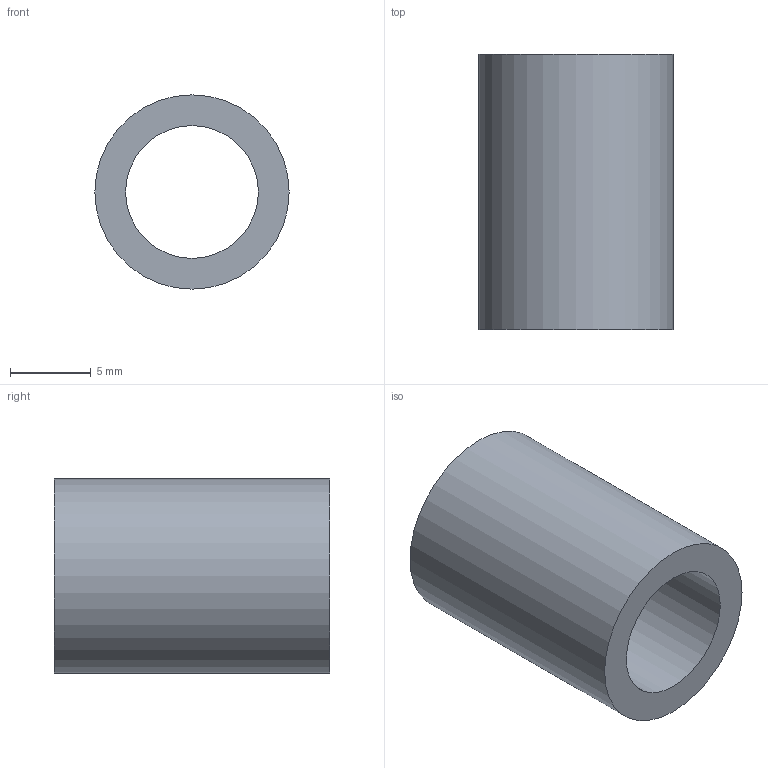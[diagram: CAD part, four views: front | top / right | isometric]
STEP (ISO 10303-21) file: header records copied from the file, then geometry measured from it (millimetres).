
FILE_DESCRIPTION( ( 'Unknown' ), '1' );
FILE_NAME( 'F:/navkite transat/construction/2016/3D ET ASSEMBLAGES/desal/DES 19.stp', 'Unknown', ( 'GMA' ), ( 'Unknown' ), 'XStep 1.0', 'Unknown', ' ' );
FILE_SCHEMA( ( 'automotive_design' ) );
Length unit declared in the file: millimetre
Products named in the file (1): 1
Bounding box: 12 x 17 x 12 mm (x, y, z)
Volume: 1024.9 mm3; surface area: 1199.4 mm2
Topology: 1 solids, 1 shells, 4 faces, 6 edges, 4 vertices
Faces by surface type: cylinder 2, plane 2
Full cylindrical faces by diameter (mm): 8.2 x1, 12 x1
Entity records: 136 total; most frequent: DIRECTION 18, CARTESIAN_POINT 13, AXIS2_PLACEMENT_3D 9, EDGE_LOOP 8, ORIENTED_EDGE 8, FACE_OUTER_BOUND 6, STYLED_ITEM 4, PRESENTATION_STYLE_ASSIGNMENT 4
